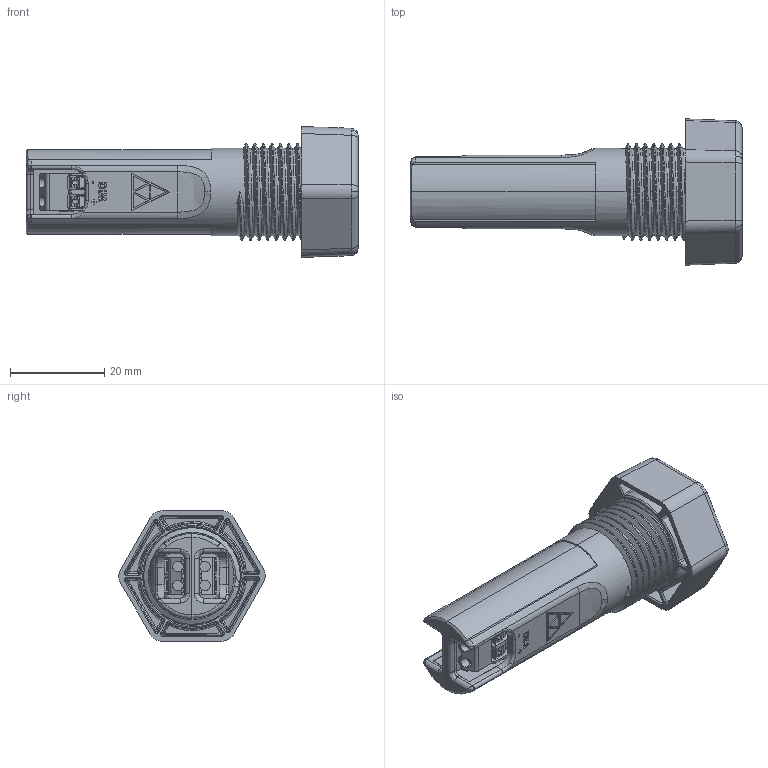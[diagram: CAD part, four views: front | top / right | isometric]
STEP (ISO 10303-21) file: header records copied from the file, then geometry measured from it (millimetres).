
FILE_DESCRIPTION (( 'STEP AP214' ), '1' );
FILE_NAME ('APT-TRS-VW-BM832 Assembly.STEP', '2021-10-06T17:12:40', ( '' ), ( '' ), 'SwSTEP 2.0', 'SolidWorks 2021', '' );
FILE_SCHEMA (( 'AUTOMOTIVE_DESIGN' ));
Length unit declared in the file: inch
Products named in the file (6): APT-TRS-VW-BM832 Assembly; Translator Body; Translator Cap; WAGO_2PIN; TRS BOARDD; 106376_asm.stp
Assembly tree (5 placements, depth 3):
  APT-TRS-VW-BM832 Assembly
    Translator Body
    Translator Cap
    TRS BOARDD
      106376_asm.stp
      WAGO_2PIN
Bounding box: 70.46 x 31.07 x 27.78 mm (x, y, z)
Volume: 11725 mm3; surface area: 18861.8 mm2
Topology: 121 solids, 121 shells, 2143 faces, 5146 edges, 3307 vertices
Faces by surface type: plane 1351, cylinder 480, bspline 190, sphere 60, torus 32, cone 30
Entity records: 75039 total; most frequent: CARTESIAN_POINT 21246, ORIENTED_EDGE 10268, DIRECTION 9514, EDGE_CURVE 5134, VECTOR 3500, LINE 3500, VERTEX_POINT 3307, AXIS2_PLACEMENT_3D 3007
